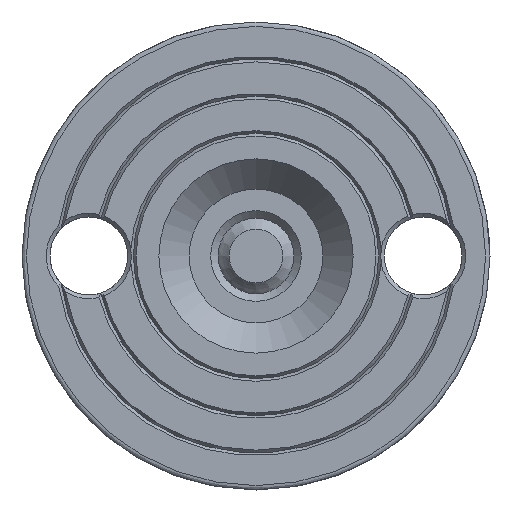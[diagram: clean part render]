
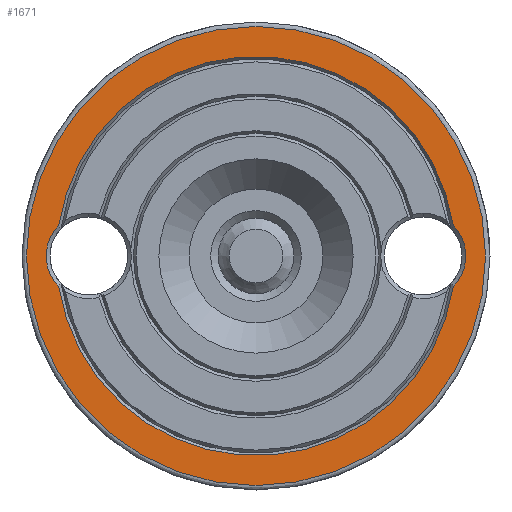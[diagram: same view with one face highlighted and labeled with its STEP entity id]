
A CAD part, front view. The second image highlights one B-rep face of the part: STEP entity #1671.
In plain terms, the highlighted planar face has unit normal (0, -1, 0).
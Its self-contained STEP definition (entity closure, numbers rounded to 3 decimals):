
#37=CARTESIAN_POINT('',(1327.655,970.027,0.0));
#38=VERTEX_POINT('',#37);
#65=CARTESIAN_POINT('',(1265.855,970.027,0.0));
#66=VERTEX_POINT('',#65);
#67=CARTESIAN_POINT('',(1296.755,970.027,0.0));
#68=DIRECTION('',(0.0,-1.0,0.0));
#69=DIRECTION('',(1.0,0.0,0.0));
#70=AXIS2_PLACEMENT_3D('',#67,#68,#69);
#71=CIRCLE('',#70,30.9);
#72=EDGE_CURVE('',#66,#38,#71,.T.);
#74=CARTESIAN_POINT('',(1296.755,970.027,0.0));
#75=DIRECTION('',(0.0,-1.0,0.0));
#76=DIRECTION('',(1.0,0.0,0.0));
#77=AXIS2_PLACEMENT_3D('',#74,#75,#76);
#78=CIRCLE('',#77,30.9);
#79=EDGE_CURVE('',#38,#66,#78,.T.);
#961=CARTESIAN_POINT('',(1323.315,970.027,-4.072));
#962=VERTEX_POINT('',#961);
#971=CARTESIAN_POINT('',(1323.315,970.027,4.072));
#972=VERTEX_POINT('',#971);
#973=CARTESIAN_POINT('',(1319.255,970.027,0.0));
#974=DIRECTION('',(0.0,-1.0,0.0));
#975=DIRECTION('',(0.0,0.0,1.0));
#976=AXIS2_PLACEMENT_3D('',#973,#974,#975);
#977=CIRCLE('',#976,5.75);
#978=EDGE_CURVE('',#962,#972,#977,.T.);
#1217=CARTESIAN_POINT('',(1270.195,970.027,-4.072));
#1218=VERTEX_POINT('',#1217);
#1219=CARTESIAN_POINT('',(1296.755,970.027,0.0));
#1220=DIRECTION('',(0.0,-1.0,0.0));
#1221=DIRECTION('',(1.0,0.0,0.0));
#1222=AXIS2_PLACEMENT_3D('',#1219,#1220,#1221);
#1223=CIRCLE('',#1222,26.87);
#1224=EDGE_CURVE('',#1218,#962,#1223,.T.);
#1276=CARTESIAN_POINT('',(1270.195,970.027,4.072));
#1277=VERTEX_POINT('',#1276);
#1286=CARTESIAN_POINT('',(1274.255,970.027,0.0));
#1287=DIRECTION('',(0.0,-1.0,0.0));
#1288=DIRECTION('',(0.0,0.0,1.0));
#1289=AXIS2_PLACEMENT_3D('',#1286,#1287,#1288);
#1290=CIRCLE('',#1289,5.75);
#1291=EDGE_CURVE('',#1277,#1218,#1290,.T.);
#1324=CARTESIAN_POINT('',(1296.755,970.027,0.0));
#1325=DIRECTION('',(0.0,-1.0,0.0));
#1326=DIRECTION('',(1.0,0.0,0.0));
#1327=AXIS2_PLACEMENT_3D('',#1324,#1325,#1326);
#1328=CIRCLE('',#1327,26.87);
#1329=EDGE_CURVE('',#972,#1277,#1328,.T.);
#1656=CARTESIAN_POINT('',(1234.955,970.027,-61.8));
#1657=DIRECTION('',(0.0,1.0,0.0));
#1658=DIRECTION('',(0.0,0.0,1.0));
#1659=AXIS2_PLACEMENT_3D('',#1656,#1657,#1658);
#1660=PLANE('',#1659);
#1661=ORIENTED_EDGE('',*,*,#79,.T.);
#1662=ORIENTED_EDGE('',*,*,#72,.T.);
#1663=EDGE_LOOP('',(#1661,#1662));
#1664=FACE_OUTER_BOUND('',#1663,.T.);
#1665=ORIENTED_EDGE('',*,*,#1224,.F.);
#1666=ORIENTED_EDGE('',*,*,#1291,.F.);
#1667=ORIENTED_EDGE('',*,*,#1329,.F.);
#1668=ORIENTED_EDGE('',*,*,#978,.F.);
#1669=EDGE_LOOP('',(#1665,#1666,#1667,#1668));
#1670=FACE_BOUND('',#1669,.T.);
#1671=ADVANCED_FACE('',(#1664,#1670),#1660,.F.);
